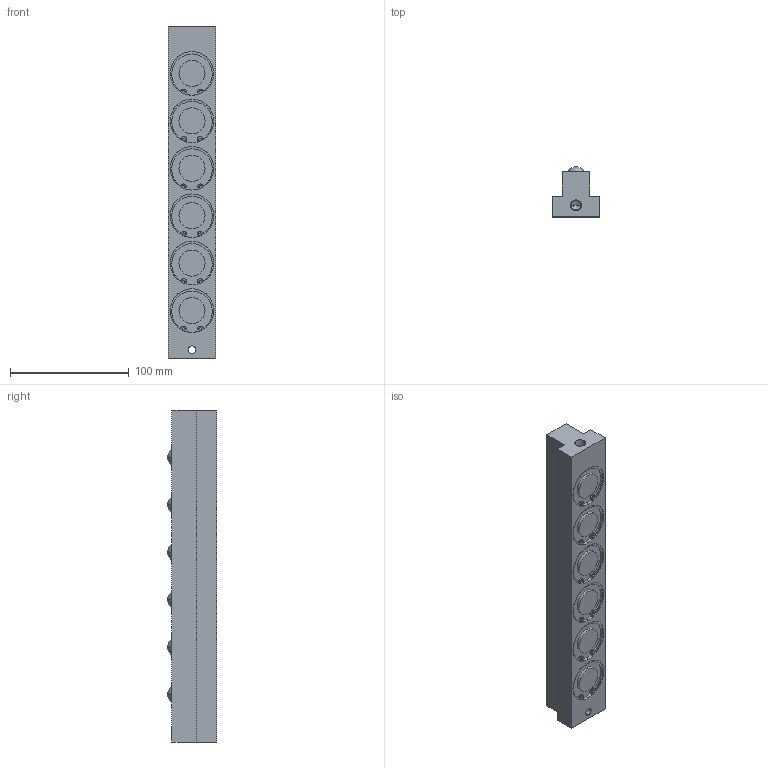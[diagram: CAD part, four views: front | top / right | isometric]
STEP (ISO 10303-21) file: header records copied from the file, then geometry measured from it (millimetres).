
FILE_DESCRIPTION (( 'STEP AP203' ), '1' );
FILE_NAME ('PVL30T-6.STEP', '2015-12-24T08:25:47', ( '' ), ( '' ), 'SwSTEP 2.0', 'SolidWorks 2013', '' );
FILE_SCHEMA (( 'CONFIG_CONTROL_DESIGN' ));
Length unit declared in the file: millimetre
Products named in the file (1): PVL30T-6
Bounding box: 40 x 42 x 280 mm (x, y, z)
Volume: 316151.3 mm3; surface area: 54292.2 mm2
Topology: 1 solids, 1 shells, 208 faces, 526 edges, 351 vertices
Faces by surface type: cylinder 126, plane 66, sphere 12, cone 4
Entity records: 6505 total; most frequent: DIRECTION 1258, CARTESIAN_POINT 1084, ORIENTED_EDGE 1048, AXIS2_PLACEMENT_3D 525, EDGE_CURVE 524, VERTEX_POINT 351, CIRCLE 316, EDGE_LOOP 243
